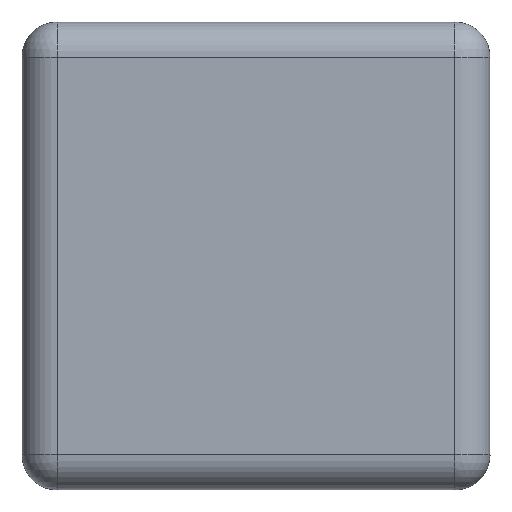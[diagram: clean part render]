
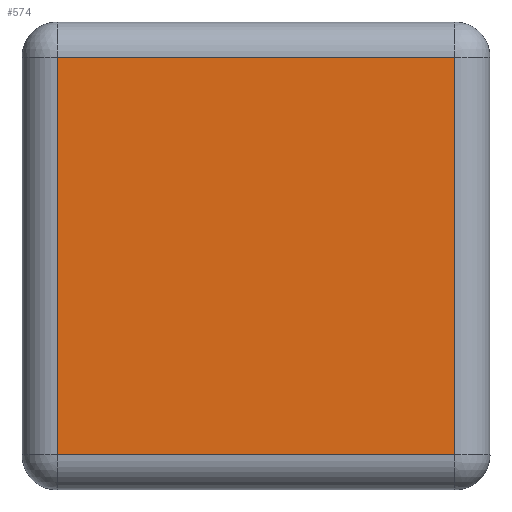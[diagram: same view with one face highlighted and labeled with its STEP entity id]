
A CAD part, front view. The second image highlights one B-rep face of the part: STEP entity #574.
In plain terms, the highlighted planar face has unit normal (0, -1, 0).
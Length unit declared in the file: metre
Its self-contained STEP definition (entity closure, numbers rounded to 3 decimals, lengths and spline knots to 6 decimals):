
#53=LINE('',#891,#81);
#62=LINE('',#956,#90);
#63=LINE('',#959,#91);
#64=LINE('',#960,#92);
#81=VECTOR('',#680,1.);
#90=VECTOR('',#715,1.);
#91=VECTOR('',#716,1.);
#92=VECTOR('',#717,1.);
#108=PLANE('',#623);
#179=ORIENTED_EDGE('',*,*,#336,.F.);
#180=ORIENTED_EDGE('',*,*,#337,.F.);
#181=ORIENTED_EDGE('',*,*,#315,.T.);
#182=ORIENTED_EDGE('',*,*,#338,.T.);
#315=EDGE_CURVE('',#400,#401,#53,.T.);
#336=EDGE_CURVE('',#413,#414,#62,.F.);
#337=EDGE_CURVE('',#400,#413,#63,.F.);
#338=EDGE_CURVE('',#401,#414,#64,.F.);
#400=VERTEX_POINT('',#888);
#401=VERTEX_POINT('',#890);
#413=VERTEX_POINT('',#957);
#414=VERTEX_POINT('',#958);
#492=EDGE_LOOP('',(#179,#180,#181,#182));
#529=FACE_BOUND('',#492,.T.);
#574=ADVANCED_FACE('',(#529),#108,.T.);
#623=AXIS2_PLACEMENT_3D('',#955,#713,#714);
#680=DIRECTION('',(1.,0.,0.));
#713=DIRECTION('',(0.,-1.,0.));
#714=DIRECTION('',(0.,0.,-1.));
#715=DIRECTION('',(-1.,0.,0.));
#716=DIRECTION('',(0.,0.,-1.));
#717=DIRECTION('',(0.,0.,-1.));
#888=CARTESIAN_POINT('',(-0.04249,-0.00655,-0.02833));
#890=CARTESIAN_POINT('',(-0.04181,-0.00655,-0.02833));
#891=CARTESIAN_POINT('',(-0.04215,-0.00655,-0.02833));
#955=CARTESIAN_POINT('',(-0.04215,-0.00655,-0.02839));
#956=CARTESIAN_POINT('',(-0.042579,-0.00655,-0.02765));
#957=CARTESIAN_POINT('',(-0.04249,-0.00655,-0.02765));
#958=CARTESIAN_POINT('',(-0.04181,-0.00655,-0.02765));
#959=CARTESIAN_POINT('',(-0.04249,-0.00655,-0.028419));
#960=CARTESIAN_POINT('',(-0.04181,-0.00655,-0.02839));
